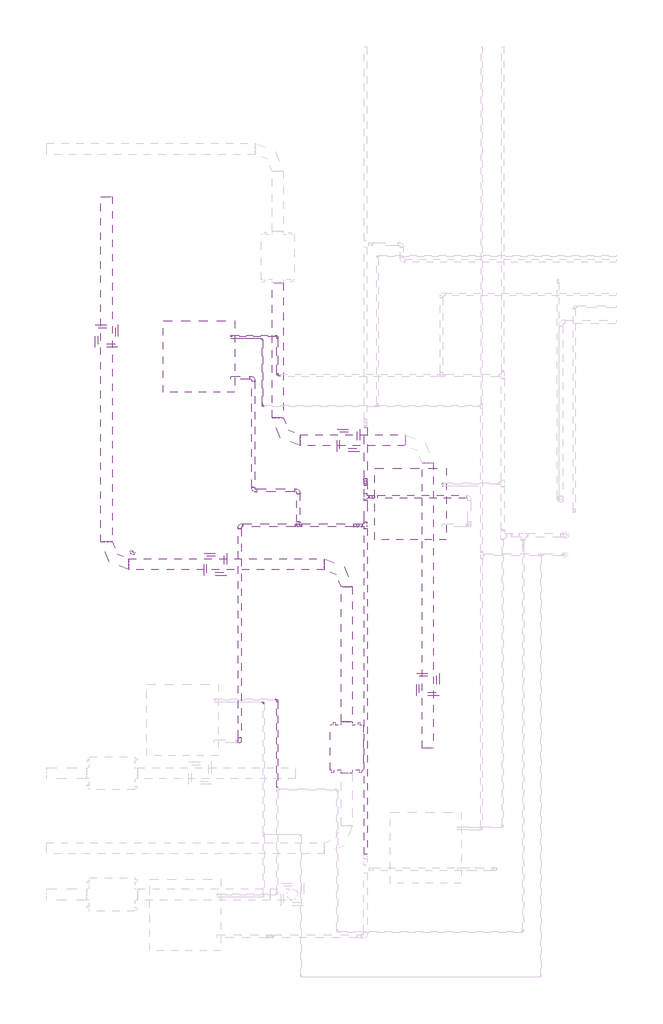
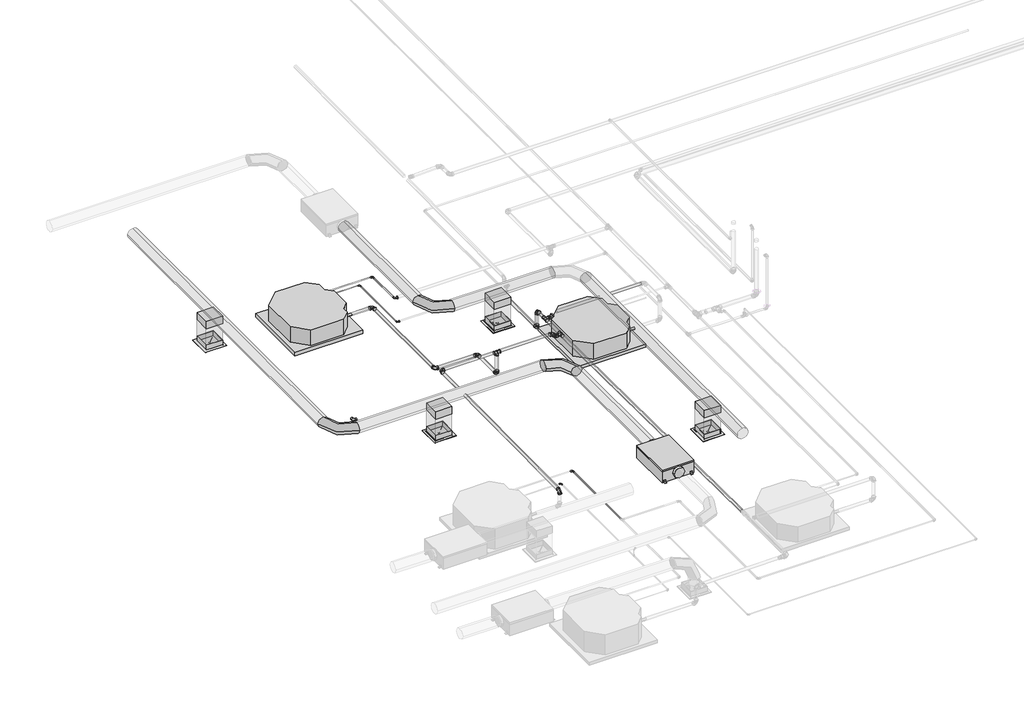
# One storey, part 2 of 21: 27 pipe fittings, 23 pipe segments, 10 duct segments, 7 duct fittings, 4 air terminals, 3 proxies.
"""IFC4 building model written with IfcOpenShell, lengths in millimetres."""

from ifc_helpers import new_model, si_unit, point, frame, frame_2d, origin, place, context, project, spatial, polyline, circle_curve, trimmed, segment, composite_curve, outline, extrude, transform, mapped, element, save
from components import sdq3535_a75e83f7, mechanical_equipment_77aa587a, fh_fh_150_19aaf5c2, duct_fitting_4c01d837, duct_fitting_2_d_e46ba55a, pipe_fitting_0ad7e8bf, pipe_fitting_144f4440, pipe_fitting_0c296126, pipe_fitting_56ef2ba5, pipe_fitting_14eb6376, pipe_fitting_094f8e04, pipe_fitting_feadc871, pipe_fitting_08070b62, pipe_fitting_c900cfc2, pipe_fitting_16c020f5, pipe_fitting_501e5992, pipe_fitting_59d1f3e3, pipe_fitting_648138cd, pipe_fitting_b0e77d1d

model = new_model("IFC4")

# Units and contexts
model_context = context("Model", 3, world=origin())
ifc_project = project(units=[si_unit("LENGTHUNIT", "METRE", prefix="MILLI")], contexts=[model_context])

# Site, building, storey
site = spatial("IfcSite", under=ifc_project)
building = spatial("IfcBuilding", under=site)
storey = spatial("IfcBuildingStorey", under=building, Name="Nível 1", Elevation=0.0)

# Air terminals
placement = place(None, origin())
sdq3535_shape = sdq3535_a75e83f7(model_context)
element("IfcAirTerminal", 1, ObjectType="11 - Difusor Quadrado : SDQ3535", at=placement, inside=storey, context=model_context, shape_type="MappedRepresentation", body=[
    mapped(sdq3535_shape, transform((-8322.9288653, -5043.0039295, 3000.0), x_axis=(-1.0, 0.0, 0.0), y_axis=(0.0, -1.0, 0.0), z_axis=(0.0, 0.0, 1.0))),
])
element("IfcAirTerminal", 2, ObjectType="11 - Difusor Quadrado : SDQ3535", at=placement, inside=storey, context=model_context, shape_type="MappedRepresentation", body=[
    mapped(sdq3535_shape, transform((-9381.5962674, -1790.4422031, 3000.0), x_axis=(0.0, -1.0, 0.0), y_axis=(1.0, 0.0, 0.0), z_axis=(0.0, 0.0, 1.0))),
])
element("IfcAirTerminal", 3, ObjectType="11 - Difusor Quadrado : SDQ3535", at=placement, inside=storey, context=model_context, shape_type="MappedRepresentation", body=[
    mapped(sdq3535_shape, transform((-11154.5028535, -3442.2114568, 3000.0), x_axis=(0.0, 1.0, 0.0), y_axis=(-1.0, 0.0, 0.0), z_axis=(0.0, 0.0, 1.0))),
])
element("IfcAirTerminal", 4, ObjectType="11 - Difusor Quadrado : SDQ3535", at=placement, inside=storey, context=model_context, shape_type="MappedRepresentation", body=[
    mapped(sdq3535_shape, transform((-12604.386399, -400.1179498, 3000.0), x_axis=(1.0, 0.0, 0.0), y_axis=(0.0, 1.0, 0.0), z_axis=(0.0, 0.0, 1.0))),
])

# Proxies
mechanical_equipment_shape = mechanical_equipment_77aa587a(model_context)
element("IfcBuildingElementProxy", 5, Name="Midea_VRF_Indoor_4-way Cassette_MI-56(71,80)Q4_DHN1-D (2nd DC) : MI2-71Q4DHN1", ObjectType="Midea_VRF_Indoor_4-way Cassette_MI-56(71,80)Q4_DHN1-D (2nd DC) : MI2-71Q4DHN1", at=placement, inside=storey, context=model_context, shape_type="MappedRepresentation", body=[
    mapped(mechanical_equipment_shape, transform((-8554.1056599, -2637.9997871, 3000.0), x_axis=(1.0, 0.0, 0.0), y_axis=(0.0, 1.0, 0.0), z_axis=(0.0, 0.0, 1.0))),
])
element("IfcBuildingElementProxy", 6, Name="Midea_VRF_Indoor_4-way Cassette_MI-56(71,80)Q4_DHN1-D (2nd DC) : MI2-71Q4DHN1", ObjectType="Midea_VRF_Indoor_4-way Cassette_MI-56(71,80)Q4_DHN1-D (2nd DC) : MI2-71Q4DHN1", at=placement, inside=storey, context=model_context, shape_type="MappedRepresentation", body=[
    mapped(mechanical_equipment_shape, transform((-11373.3060551, -673.3287635, 3000.0), x_axis=(1.0, 0.0, 0.0), y_axis=(0.0, 1.0, 0.0), z_axis=(0.0, 0.0, 1.0))),
])
fh_fh_150_shape = fh_fh_150_19aaf5c2(model_context)
element("IfcBuildingElementProxy", 7, Name="FH : FH 150", ObjectType="FH : FH 150", at=placement, inside=storey, context=model_context, shape_type="MappedRepresentation", body=[
    mapped(fh_fh_150_shape, transform((-9404.386399, -5884.2114568, 3400.0), x_axis=(1.0, 0.0, 0.0), y_axis=(0.0, 1.0, 0.0), z_axis=(0.0, 0.0, 1.0))),
])

# Duct fittings
duct_fitting_shape = duct_fitting_4c01d837(model_context)
element("IfcDuctFitting", 8, ObjectType="M_Encaixe de duto retangular : Padrão", at=placement, inside=storey, context=model_context, shape_type="MappedRepresentation", body=[
    mapped(duct_fitting_shape, transform((-8322.9288653, -5043.0039295, 3418.5), x_axis=(0.0, 0.0, -1.0), y_axis=(0.0, 1.0, 0.0), z_axis=(1.0, 0.0, 0.0))),
])
element("IfcDuctFitting", 9, ObjectType="M_Encaixe de duto retangular : Padrão", at=placement, inside=storey, context=model_context, shape_type="MappedRepresentation", body=[
    mapped(duct_fitting_shape, transform((-9381.5962674, -1790.4422031, 3418.5), x_axis=(0.0, 0.0, -1.0), y_axis=(-1.0, 0.0, 0.0), z_axis=(0.0, 1.0, 0.0))),
])
element("IfcDuctFitting", 10, ObjectType="M_Encaixe de duto retangular : Padrão", at=placement, inside=storey, context=model_context, shape_type="MappedRepresentation", body=[
    mapped(duct_fitting_shape, transform((-11154.5028535, -3442.2114568, 3418.5), x_axis=(0.0, 0.0, -1.0), y_axis=(1.0, 0.0, 0.0), z_axis=(0.0, -1.0, 0.0))),
])
element("IfcDuctFitting", 11, ObjectType="M_Encaixe de duto retangular : Padrão", at=placement, inside=storey, context=model_context, shape_type="MappedRepresentation", body=[
    mapped(duct_fitting_shape, transform((-12604.386399, -400.1179498, 3418.5), x_axis=(0.0, 0.0, -1.0), y_axis=(0.0, -1.0, 0.0), z_axis=(-1.0, 0.0, 0.0))),
])
duct_fitting_2_d_shape = duct_fitting_2_d_e46ba55a(model_context)
element("IfcDuctFitting", 12, ObjectType="M_Cotovelo redondo : 2 D", at=placement, inside=storey, context=model_context, shape_type="MappedRepresentation", body=[
    mapped(duct_fitting_2_d_shape, transform((-9404.386399, -3442.2114568, 3493.0), x_axis=(0.0, 1.0, 0.0), y_axis=(-1.0, 0.0, 0.0), z_axis=(0.0, 0.0, 1.0))),
])
element("IfcDuctFitting", 13, ObjectType="M_Cotovelo redondo : 2 D", at=placement, inside=storey, context=model_context, shape_type="MappedRepresentation", body=[
    mapped(duct_fitting_2_d_shape, transform((-12604.386399, -3442.2114568, 3493.0), x_axis=(0.0, -1.0, 0.0), y_axis=(1.0, 0.0, 0.0), z_axis=(0.0, 0.0, 1.0))),
])
element("IfcDuctFitting", 14, ObjectType="M_Cotovelo redondo : 2 D", at=placement, inside=storey, context=model_context, shape_type="MappedRepresentation", body=[
    mapped(duct_fitting_2_d_shape, transform((-10322.9288653, -1790.4422031, 3493.0), x_axis=(0.0, -1.0, 0.0), y_axis=(1.0, 0.0, 0.0), z_axis=(0.0, 0.0, 1.0))),
])

# Duct segments
element("IfcDuctSegment", 15, ObjectType="Torneiras / Raio curto", at=placement, inside=storey, context=model_context, shape_type="SweptSolid", body=[
    extrude(outline(composite_curve([segment(trimmed(circle_curve(frame_2d((3493.0, -9404.386399)), 74.5), [point((3493.0, -9329.886399))], [point((3567.5, -9404.386399))], False, "CARTESIAN"), True, "CONTINUOUS"), segment(trimmed(circle_curve(frame_2d((3493.0, -9404.386399)), 74.5), [point((3567.5, -9404.386399))], [point((3493.0, -9478.886399))], False, "CARTESIAN"), True, "CONTINUOUS"), segment(trimmed(circle_curve(frame_2d((3493.0, -9404.386399)), 74.5), [point((3493.0, -9478.886399))], [point((3418.5, -9404.386399))], False, "CARTESIAN"), True, "CONTINUOUS"), segment(trimmed(circle_curve(frame_2d((3493.0, -9404.386399)), 74.5), [point((3418.5, -9404.386399))], [point((3493.0, -9329.886399))], False, "CARTESIAN"), True, "CONTINUOUS")], self_intersect=False)), frame((0.0, -5542.2114568, 0.0), z_axis=(0.0, 1.0, 0.0), x_axis=(0.0, 0.0, 1.0)), (0.0, 0.0, 1.0), 1802.0),
])
element("IfcDuctSegment", 16, ObjectType="Torneiras / Raio curto", at=placement, inside=storey, context=model_context, shape_type="SweptSolid", body=[
    extrude(outline(composite_curve([segment(trimmed(circle_curve(frame_2d((-3442.2114568, 3493.0)), 74.5), [point((-3367.7114568, 3493.0))], [point((-3442.2114568, 3418.5))], False, "CARTESIAN"), True, "CONTINUOUS"), segment(trimmed(circle_curve(frame_2d((-3442.2114568, 3493.0)), 74.5), [point((-3442.2114568, 3418.5))], [point((-3516.7114568, 3493.0))], False, "CARTESIAN"), True, "CONTINUOUS"), segment(trimmed(circle_curve(frame_2d((-3442.2114568, 3493.0)), 74.5), [point((-3516.7114568, 3493.0))], [point((-3442.2114568, 3567.5))], False, "CARTESIAN"), True, "CONTINUOUS"), segment(trimmed(circle_curve(frame_2d((-3442.2114568, 3493.0)), 74.5), [point((-3442.2114568, 3567.5))], [point((-3367.7114568, 3493.0))], False, "CARTESIAN"), True, "CONTINUOUS")], self_intersect=False)), frame((-12306.386399, 0.0, 0.0), z_axis=(1.0, 0.0, 0.0), x_axis=(0.0, 1.0, 0.0)), (0.0, 0.0, 1.0), 2604.0),
])
element("IfcDuctSegment", 17, ObjectType="Torneiras / Raio curto", at=placement, inside=storey, context=model_context, shape_type="SweptSolid", body=[
    extrude(outline(composite_curve([segment(trimmed(circle_curve(frame_2d((3493.0, -12604.386399)), 74.5), [point((3493.0, -12529.886399))], [point((3567.5, -12604.386399))], False, "CARTESIAN"), True, "CONTINUOUS"), segment(trimmed(circle_curve(frame_2d((3493.0, -12604.386399)), 74.5), [point((3567.5, -12604.386399))], [point((3493.0, -12678.886399))], False, "CARTESIAN"), True, "CONTINUOUS"), segment(trimmed(circle_curve(frame_2d((3493.0, -12604.386399)), 74.5), [point((3493.0, -12678.886399))], [point((3418.5, -12604.386399))], False, "CARTESIAN"), True, "CONTINUOUS"), segment(trimmed(circle_curve(frame_2d((3493.0, -12604.386399)), 74.5), [point((3418.5, -12604.386399))], [point((3493.0, -12529.886399))], False, "CARTESIAN"), True, "CONTINUOUS")], self_intersect=False)), frame((0.0, -3144.2114568, 0.0), z_axis=(0.0, 1.0, 0.0), x_axis=(0.0, 0.0, 1.0)), (0.0, 0.0, 1.0), 4602.0),
])
element("IfcDuctSegment", 18, ObjectType="Torneiras / Raio curto", at=placement, inside=storey, context=model_context, shape_type="SweptSolid", body=[
    extrude(outline(composite_curve([segment(trimmed(circle_curve(frame_2d((3493.0, -10322.9288653)), 74.5), [point((3493.0, -10397.4288653))], [point((3418.5, -10322.9288653))], False, "CARTESIAN"), True, "CONTINUOUS"), segment(trimmed(circle_curve(frame_2d((3493.0, -10322.9288653)), 74.5), [point((3418.5, -10322.9288653))], [point((3493.0, -10248.4288653))], False, "CARTESIAN"), True, "CONTINUOUS"), segment(trimmed(circle_curve(frame_2d((3493.0, -10322.9288653)), 74.5), [point((3493.0, -10248.4288653))], [point((3567.5, -10322.9288653))], False, "CARTESIAN"), True, "CONTINUOUS"), segment(trimmed(circle_curve(frame_2d((3493.0, -10322.9288653)), 74.5), [point((3567.5, -10322.9288653))], [point((3493.0, -10397.4288653))], False, "CARTESIAN"), True, "CONTINUOUS")], self_intersect=False)), frame((0.0, -1492.4422031, 0.0), z_axis=(0.0, 1.0, 0.0), x_axis=(0.0, 0.0, 1.0)), (0.0, 0.0, 1.0), 1802.0),
])
element("IfcDuctSegment", 19, ObjectType="Torneiras / Raio curto", at=placement, inside=storey, context=model_context, shape_type="SweptSolid", body=[
    extrude(outline(composite_curve([segment(trimmed(circle_curve(frame_2d((-1790.4422031, 3493.0)), 74.5), [point((-1864.9422031, 3493.0))], [point((-1790.4422031, 3567.5))], False, "CARTESIAN"), True, "CONTINUOUS"), segment(trimmed(circle_curve(frame_2d((-1790.4422031, 3493.0)), 74.5), [point((-1790.4422031, 3567.5))], [point((-1715.9422031, 3493.0))], False, "CARTESIAN"), True, "CONTINUOUS"), segment(trimmed(circle_curve(frame_2d((-1790.4422031, 3493.0)), 74.5), [point((-1715.9422031, 3493.0))], [point((-1790.4422031, 3418.5))], False, "CARTESIAN"), True, "CONTINUOUS"), segment(trimmed(circle_curve(frame_2d((-1790.4422031, 3493.0)), 74.5), [point((-1790.4422031, 3418.5))], [point((-1864.9422031, 3493.0))], False, "CARTESIAN"), True, "CONTINUOUS")], self_intersect=False)), frame((-10024.9288653, 0.0, 0.0), z_axis=(1.0, 0.0, 0.0), x_axis=(0.0, 1.0, 0.0)), (0.0, 0.0, 1.0), 1404.0),
])
element("IfcDuctSegment", 20, ObjectType="Torneiras / Raio curto", at=placement, inside=storey, context=model_context, shape_type="SweptSolid", body=[
    extrude(outline(composite_curve([segment(trimmed(circle_curve(frame_2d((3493.0, -8322.9288653)), 74.5), [point((3493.0, -8397.4288653))], [point((3418.5, -8322.9288653))], False, "CARTESIAN"), True, "CONTINUOUS"), segment(trimmed(circle_curve(frame_2d((3493.0, -8322.9288653)), 74.5), [point((3418.5, -8322.9288653))], [point((3493.0, -8248.4288653))], False, "CARTESIAN"), True, "CONTINUOUS"), segment(trimmed(circle_curve(frame_2d((3493.0, -8322.9288653)), 74.5), [point((3493.0, -8248.4288653))], [point((3567.5, -8322.9288653))], False, "CARTESIAN"), True, "CONTINUOUS"), segment(trimmed(circle_curve(frame_2d((3493.0, -8322.9288653)), 74.5), [point((3567.5, -8322.9288653))], [point((3493.0, -8397.4288653))], False, "CARTESIAN"), True, "CONTINUOUS")], self_intersect=False)), frame((0.0, -5890.4422031, 0.0), z_axis=(0.0, 1.0, 0.0), x_axis=(0.0, 0.0, 1.0)), (0.0, 0.0, 1.0), 3802.0),
])
element("IfcDuctSegment", 21, ObjectType="Raios cotovelos / torneiras", at=placement, inside=storey, context=model_context, shape_type="SweptSolid", body=[
    extrude(outline(polyline([(-8435.4288653, -5155.5039295), (-8435.4288653, -4930.5039295), (-8210.4288653, -4930.5039295), (-8210.4288653, -5155.5039295), (-8435.4288653, -5155.5039295)])), frame((0.0, 0.0, 3005.0), z_axis=(0.0, 0.0, 1.0), x_axis=(1.0, 0.0, 0.0)), (0.0, 0.0, 1.0), 311.9),
])
element("IfcDuctSegment", 22, ObjectType="Raios cotovelos / torneiras", at=placement, inside=storey, context=model_context, shape_type="SweptSolid", body=[
    extrude(outline(polyline([(-9269.0962674, -1902.9422031), (-9494.0962674, -1902.9422031), (-9494.0962674, -1677.9422031), (-9269.0962674, -1677.9422031), (-9269.0962674, -1902.9422031)])), frame((0.0, 0.0, 3005.0), z_axis=(0.0, 0.0, 1.0), x_axis=(1.0, 0.0, 0.0)), (0.0, 0.0, 1.0), 311.9),
])
element("IfcDuctSegment", 23, ObjectType="Raios cotovelos / torneiras", at=placement, inside=storey, context=model_context, shape_type="SweptSolid", body=[
    extrude(outline(polyline([(-11267.0028535, -3329.7114568), (-11042.0028535, -3329.7114568), (-11042.0028535, -3554.7114568), (-11267.0028535, -3554.7114568), (-11267.0028535, -3329.7114568)])), frame((0.0, 0.0, 3005.0), z_axis=(0.0, 0.0, 1.0), x_axis=(1.0, 0.0, 0.0)), (0.0, 0.0, 1.0), 311.9),
])
element("IfcDuctSegment", 24, ObjectType="Raios cotovelos / torneiras", at=placement, inside=storey, context=model_context, shape_type="SweptSolid", body=[
    extrude(outline(polyline([(-12491.886399, -287.6179498), (-12491.886399, -512.6179498), (-12716.886399, -512.6179498), (-12716.886399, -287.6179498), (-12491.886399, -287.6179498)])), frame((0.0, 0.0, 3005.0), z_axis=(0.0, 0.0, 1.0), x_axis=(1.0, 0.0, 0.0)), (0.0, 0.0, 1.0), 311.9),
])

# Pipe fittings
pipe_fitting_shape = pipe_fitting_0ad7e8bf(model_context)
element("IfcPipeFitting", 25, ObjectType="Cotovelo - Soldado - CU : Padrão", at=placement, inside=storey, context=model_context, shape_type="MappedRepresentation", body=[
    mapped(pipe_fitting_shape, transform((-12271.384623, -3299.9512583, 3500.0), x_axis=(0.0, -1.0, 0.0), y_axis=(1.0, 0.0, 0.0), z_axis=(0.0, 0.0, 1.0))),
])
pipe_fitting_2_shape = pipe_fitting_144f4440(model_context)
element("IfcPipeFitting", 26, ObjectType="Cotovelo - PVC - CW : Padrão", at=placement, inside=storey, context=model_context, shape_type="MappedRepresentation", body=[
    mapped(pipe_fitting_2_shape, transform((-9153.185193, -2345.4548922, 3200.0), x_axis=(0.0, -1.0, 0.0), y_axis=(0.0, 0.0, 1.0), z_axis=(-1.0, 0.0, 0.0))),
])
element("IfcPipeFitting", 27, ObjectType="Cotovelo - PVC - CW : Padrão", at=placement, inside=storey, context=model_context, shape_type="MappedRepresentation", body=[
    mapped(pipe_fitting_2_shape, transform((-10832.1622686, -2922.9997871, 3500.0), x_axis=(-1.0, 0.0, 0.0), y_axis=(0.0, -0.9999500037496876, -0.009999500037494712), z_axis=(0.0, -0.009999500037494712, 0.9999500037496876))),
])
element("IfcPipeFitting", 28, ObjectType="Cotovelo - PVC - CW : Padrão", at=placement, inside=storey, context=model_context, shape_type="MappedRepresentation", body=[
    mapped(pipe_fitting_2_shape, transform((-10648.3060552, -958.3287635, 3182.3), x_axis=(0.0, 1.0, 0.0), y_axis=(-0.9999999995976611, 0.0, 2.8366844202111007e-05), z_axis=(2.8366844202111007e-05, 0.0, 0.9999999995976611))),
])
element("IfcPipeFitting", 29, ObjectType="Cotovelo - PVC - CW : Padrão", at=placement, inside=storey, context=model_context, shape_type="MappedRepresentation", body=[
    mapped(pipe_fitting_2_shape, transform((-10648.3060552, -2458.3287635, 3182.3), x_axis=(0.0, -1.0, 0.0), y_axis=(1.0, 0.0, 0.0), z_axis=(0.0, 0.0, 1.0))),
])
element("IfcPipeFitting", 30, ObjectType="Cotovelo - PVC - CW : Padrão", at=placement, inside=storey, context=model_context, shape_type="MappedRepresentation", body=[
    mapped(pipe_fitting_2_shape, transform((-10048.3060552, -2922.9997871, 3182.3), x_axis=(0.0, 0.0, -1.0), y_axis=(0.0, 1.0, 0.0), z_axis=(1.0, 0.0, 0.0))),
])
element("IfcPipeFitting", 31, ObjectType="Cotovelo - PVC - CW : Padrão", at=placement, inside=storey, context=model_context, shape_type="MappedRepresentation", body=[
    mapped(pipe_fitting_2_shape, transform((-10048.3060552, -2458.3287635, 3182.3), x_axis=(0.0, 1.0, 0.0), y_axis=(-1.0, 0.0, 0.0), z_axis=(0.0, 0.0, 1.0))),
])
pipe_fitting_3_shape = pipe_fitting_0c296126(model_context)
element("IfcPipeFitting", 32, ObjectType="Cotovelo - PVC - CW : Padrão", at=placement, inside=storey, context=model_context, shape_type="MappedRepresentation", body=[
    mapped(pipe_fitting_3_shape, transform((-9153.185193, -2345.4548922, 3446.9612512), x_axis=(0.0, 0.0, 1.0), y_axis=(0.0, -1.0, 0.0), z_axis=(1.0, 0.0, 0.0))),
])
pipe_fitting_4_shape = pipe_fitting_56ef2ba5(model_context)
element("IfcPipeFitting", 33, ObjectType="Cotovelo - PVC - CW : Padrão", at=placement, inside=storey, context=model_context, shape_type="MappedRepresentation", body=[
    mapped(pipe_fitting_4_shape, transform((-10832.1622686, -5801.2147432, 3471.2178504), x_axis=(0.0, -0.9999500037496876, -0.00999950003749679), y_axis=(0.0, 0.00999950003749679, -0.9999500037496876), z_axis=(1.0, 0.0, 0.0))),
])
pipe_fitting_5_shape = pipe_fitting_14eb6376(model_context)
element("IfcPipeFitting", 34, ObjectType="Tê de redução - PVC - CW : Padrão", at=placement, inside=storey, context=model_context, shape_type="MappedRepresentation", body=[
    mapped(pipe_fitting_5_shape, transform((-9153.185193, -2922.9997871, 3452.5764146), x_axis=(0.0, -0.9999527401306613, 0.009722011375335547), y_axis=(1.0, 0.0, 0.0), z_axis=(0.0, 0.009722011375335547, 0.9999527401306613))),
])
element("IfcPipeFitting", 35, ObjectType="Tê de redução - PVC - CW : Padrão", at=placement, inside=storey, context=model_context, shape_type="MappedRepresentation", body=[
    mapped(pipe_fitting_5_shape, transform((-9153.185193, -2542.9997871, 3448.8818757), x_axis=(0.0, -0.9999527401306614, 0.009722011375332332), y_axis=(-1.0000000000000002, 0.0, 0.0), z_axis=(0.0, -0.009722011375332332, -0.9999527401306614))),
])
element("IfcPipeFitting", 36, ObjectType="Tê de redução - PVC - CW : Padrão", at=placement, inside=storey, context=model_context, shape_type="MappedRepresentation", body=[
    mapped(pipe_fitting_5_shape, transform((-10048.3060552, -2922.9997871, 3500.0), x_axis=(1.0, 0.0, 0.0), y_axis=(0.0, 0.0, 1.0), z_axis=(0.0, -1.0, 0.0))),
])
pipe_fitting_6_shape = pipe_fitting_094f8e04(model_context)
element("IfcPipeFitting", 37, ObjectType="Cotovelo - PVC - CW : Padrão", at=placement, inside=storey, context=model_context, shape_type="MappedRepresentation", body=[
    mapped(pipe_fitting_6_shape, transform((-9231.7720042, -2922.9997871, 3452.5764146), x_axis=(-1.0, 0.0, 0.0), y_axis=(0.0, 0.0, 1.0), z_axis=(0.0, 1.0, 0.0))),
])
element("IfcPipeFitting", 38, ObjectType="Cotovelo - PVC - CW : Padrão", at=placement, inside=storey, context=model_context, shape_type="MappedRepresentation", body=[
    mapped(pipe_fitting_6_shape, transform((-9279.1955896, -2922.9997871, 3500.0), x_axis=(-0.7071067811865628, 0.0, 0.7071067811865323), y_axis=(-0.7071067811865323, 0.0, -0.7071067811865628), z_axis=(0.0, -1.0, 0.0))),
])
element("IfcPipeFitting", 39, ObjectType="Cotovelo - PVC - CW : Padrão", at=placement, inside=storey, context=model_context, shape_type="MappedRepresentation", body=[
    mapped(pipe_fitting_6_shape, transform((-9074.5983818, -2542.9997871, 3448.8818757), x_axis=(1.0, 0.0, 0.0), y_axis=(0.0, 0.0, 1.0), z_axis=(0.0, -1.0, 0.0))),
])
pipe_fitting_7_shape = pipe_fitting_feadc871(model_context)
element("IfcPipeFitting", 40, ObjectType="Bucha de redução reta - Soldada - CU : Padrão", at=placement, inside=storey, context=model_context, shape_type="MappedRepresentation", body=[
    mapped(pipe_fitting_7_shape, transform((-10504.2804551, -1333.9203916, 3146.8446487), x_axis=(1.0, 0.0, 0.0), y_axis=(0.0, 1.0, 0.0), z_axis=(0.0, 0.0, 1.0))),
])
pipe_fitting_8_shape = pipe_fitting_08070b62(model_context)
element("IfcPipeFitting", 41, ObjectType="Bucha de redução reta - Soldada - CU : Padrão", at=placement, inside=storey, context=model_context, shape_type="MappedRepresentation", body=[
    mapped(pipe_fitting_8_shape, transform((-10299.3274551, -926.8697635, 3182.3085124), x_axis=(0.9999999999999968, 0.0, 8.087914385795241e-08), y_axis=(0.0, 1.0, 0.0), z_axis=(-8.087914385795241e-08, 0.0, 0.9999999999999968))),
])
pipe_fitting_9_shape = pipe_fitting_c900cfc2(model_context)
element("IfcPipeFitting", 42, ObjectType="Bucha de redução reta - Soldada - CU : Padrão", at=placement, inside=storey, context=model_context, shape_type="MappedRepresentation", body=[
    mapped(pipe_fitting_9_shape, transform((-8129.1056599, -2364.7889735, 3182.3085101), x_axis=(1.0, 0.0, 0.0), y_axis=(0.0, 1.0, 0.0), z_axis=(0.0, 0.0, 1.0))),
])
pipe_fitting_10_shape = pipe_fitting_16c020f5(model_context)
element("IfcPipeFitting", 43, ObjectType="Cotovelo - Soldado - CU : Padrão", at=placement, inside=storey, context=model_context, shape_type="MappedRepresentation", body=[
    mapped(pipe_fitting_10_shape, transform((-10328.3060551, -400.1179498, 3182.3085101), x_axis=(0.0, 1.0, 0.0), y_axis=(-1.0, 0.0, 0.0), z_axis=(0.0, 0.0, 1.0))),
])
element("IfcPipeFitting", 44, ObjectType="Cotovelo - Soldado - CU : Padrão", at=placement, inside=storey, context=model_context, shape_type="MappedRepresentation", body=[
    mapped(pipe_fitting_10_shape, transform((-10330.0196229, -5243.0039295, 3252.3085101), x_axis=(0.0, 0.9999999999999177, -4.0571328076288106e-07), y_axis=(-1.0, 0.0, 0.0), z_axis=(0.0, 4.0571328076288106e-07, 0.9999999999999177))),
])
element("IfcPipeFitting", 45, ObjectType="Cotovelo - Soldado - CU : Padrão", at=placement, inside=storey, context=model_context, shape_type="MappedRepresentation", body=[
    mapped(pipe_fitting_10_shape, transform((-10328.3060551, -926.8697635, 3182.3085101), x_axis=(0.0, -1.0, 0.0), y_axis=(0.9999999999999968, 0.0, 8.087914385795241e-08), z_axis=(-8.087914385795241e-08, 0.0, 0.9999999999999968))),
])
pipe_fitting_11_shape = pipe_fitting_501e5992(model_context)
element("IfcPipeFitting", 46, ObjectType="Bucha de redução reta - Soldada - CU : Padrão", at=placement, inside=storey, context=model_context, shape_type="MappedRepresentation", body=[
    mapped(pipe_fitting_11_shape, transform((-10935.6471551, -400.1179498, 3182.3085101), x_axis=(-1.0, 0.0, 0.0), y_axis=(0.0, -1.0, 0.0), z_axis=(0.0, 0.0, 1.0))),
])
pipe_fitting_12_shape = pipe_fitting_59d1f3e3(model_context)
element("IfcPipeFitting", 47, ObjectType="Bucha de redução reta - Soldada - CU : Padrão", at=placement, inside=storey, context=model_context, shape_type="MappedRepresentation", body=[
    mapped(pipe_fitting_12_shape, transform((-10948.3060551, -433.9203916, 3146.8446487), x_axis=(1.0, 0.0, 0.0), y_axis=(0.0, 1.0, 0.0), z_axis=(0.0, 0.0, 1.0))),
])
pipe_fitting_13_shape = pipe_fitting_648138cd(model_context)
element("IfcPipeFitting", 48, ObjectType="Cotovelo - Soldado - CU : Padrão", at=placement, inside=storey, context=model_context, shape_type="MappedRepresentation", body=[
    mapped(pipe_fitting_13_shape, transform((-10528.3060551, -433.9203916, 3146.8446487), x_axis=(0.0, 1.0, 0.0), y_axis=(-1.0, 0.0, 0.0), z_axis=(0.0, 0.0, 1.0))),
])
element("IfcPipeFitting", 49, ObjectType="Cotovelo - Soldado - CU : Padrão", at=placement, inside=storey, context=model_context, shape_type="MappedRepresentation", body=[
    mapped(pipe_fitting_13_shape, transform((-10528.3060551, -1333.9203916, 3146.8446487), x_axis=(0.0, -1.0, 0.0), y_axis=(1.0, 0.0, 0.0), z_axis=(0.0, 0.0, 1.0))),
])
element("IfcPipeFitting", 50, ObjectType="Cotovelo - Soldado - CU : Padrão", at=placement, inside=storey, context=model_context, shape_type="MappedRepresentation", body=[
    mapped(pipe_fitting_13_shape, transform((-10510.0196229, -5276.8063713, 3146.8446487), x_axis=(0.0, 1.0, 0.0), y_axis=(-1.0, 0.0, 0.0), z_axis=(0.0, 0.0, 1.0))),
])
pipe_fitting_14_shape = pipe_fitting_b0e77d1d(model_context)
element("IfcPipeFitting", 51, ObjectType="Bucha de redução reta - Soldada - CU : Padrão", at=placement, inside=storey, context=model_context, shape_type="MappedRepresentation", body=[
    mapped(pipe_fitting_14_shape, transform((-8129.1056599, -2398.5914153, 3146.8446487), x_axis=(1.0, 0.0, 0.0), y_axis=(0.0, 1.0, 0.0), z_axis=(0.0, 0.0, 1.0))),
])

# Pipe segments
element("IfcPipeSegment", 52, ObjectType="Tubos de cobre HVAC", at=placement, inside=storey, context=model_context, shape_type="SweptSolid", body=[
    extrude(outline(composite_curve([segment(trimmed(circle_curve(frame_2d((-400.1179498, 3182.3085101)), 7.935), [point((-408.0529498, 3182.3085101))], [point((-400.1179498, 3190.2435101))], False, "CARTESIAN"), True, "CONTINUOUS"), segment(trimmed(circle_curve(frame_2d((-400.1179498, 3182.3085101)), 7.935), [point((-400.1179498, 3190.2435101))], [point((-392.1829498, 3182.3085101))], False, "CARTESIAN"), True, "CONTINUOUS"), segment(trimmed(circle_curve(frame_2d((-400.1179498, 3182.3085101)), 7.935), [point((-392.1829498, 3182.3085101))], [point((-400.1179498, 3174.3735101))], False, "CARTESIAN"), True, "CONTINUOUS"), segment(trimmed(circle_curve(frame_2d((-400.1179498, 3182.3085101)), 7.935), [point((-400.1179498, 3174.3735101))], [point((-408.0529498, 3182.3085101))], False, "CARTESIAN"), True, "CONTINUOUS")], self_intersect=False)), frame((-10935.6471551, 0.0, 0.0), z_axis=(1.0, 0.0, 0.0), x_axis=(0.0, 1.0, 0.0)), (0.0, 0.0, 1.0), 578.3625),
])
element("IfcPipeSegment", 53, ObjectType="Tubos de cobre HVAC", at=placement, inside=storey, context=model_context, shape_type="SweptSolid", body=[
    extrude(outline(composite_curve([segment(trimmed(circle_curve(frame_2d((3182.3085101, -10328.3060551)), 7.935), [point((3182.3085101, -10336.2410551))], [point((3174.3735101, -10328.3060551))], False, "CARTESIAN"), True, "CONTINUOUS"), segment(trimmed(circle_curve(frame_2d((3182.3085101, -10328.3060551)), 7.935), [point((3174.3735101, -10328.3060551))], [point((3182.3085101, -10320.3710551))], False, "CARTESIAN"), True, "CONTINUOUS"), segment(trimmed(circle_curve(frame_2d((3182.3085101, -10328.3060551)), 7.935), [point((3182.3085101, -10320.3710551))], [point((3190.2435101, -10328.3060551))], False, "CARTESIAN"), True, "CONTINUOUS"), segment(trimmed(circle_curve(frame_2d((3182.3085101, -10328.3060551)), 7.935), [point((3190.2435101, -10328.3060551))], [point((3182.3085101, -10336.2410551))], False, "CARTESIAN"), True, "CONTINUOUS")], self_intersect=False)), frame((0.0, -897.8911635, 0.0), z_axis=(0.0, 1.0, 0.0), x_axis=(0.0, 0.0, 1.0)), (0.0, 0.0, 1.0), 468.7946137),
])
element("IfcPipeSegment", 54, ObjectType="Tubos de cobre HVAC", at=placement, inside=storey, context=model_context, shape_type="SweptSolid", body=[
    extrude(outline(composite_curve([segment(trimmed(circle_curve(frame_2d((-433.9203916, 3146.8446487)), 4.76), [point((-438.6803916, 3146.8446487))], [point((-433.9203916, 3151.6046487))], False, "CARTESIAN"), True, "CONTINUOUS"), segment(trimmed(circle_curve(frame_2d((-433.9203916, 3146.8446487)), 4.76), [point((-433.9203916, 3151.6046487))], [point((-429.1603916, 3146.8446487))], False, "CARTESIAN"), True, "CONTINUOUS"), segment(trimmed(circle_curve(frame_2d((-433.9203916, 3146.8446487)), 4.76), [point((-429.1603916, 3146.8446487))], [point((-433.9203916, 3142.0846487))], False, "CARTESIAN"), True, "CONTINUOUS"), segment(trimmed(circle_curve(frame_2d((-433.9203916, 3146.8446487)), 4.76), [point((-433.9203916, 3142.0846487))], [point((-438.6803916, 3146.8446487))], False, "CARTESIAN"), True, "CONTINUOUS")], self_intersect=False)), frame((-10938.6316551, 0.0, 0.0), z_axis=(1.0, 0.0, 0.0), x_axis=(0.0, 1.0, 0.0)), (0.0, 0.0, 1.0), 386.3),
])
element("IfcPipeSegment", 55, ObjectType="Tubos de cobre HVAC", at=placement, inside=storey, context=model_context, shape_type="SweptSolid", body=[
    extrude(outline(composite_curve([segment(trimmed(circle_curve(frame_2d((3146.8446487, -10528.3060551)), 4.76), [point((3146.8446487, -10533.0660551))], [point((3142.0846487, -10528.3060551))], False, "CARTESIAN"), True, "CONTINUOUS"), segment(trimmed(circle_curve(frame_2d((3146.8446487, -10528.3060551)), 4.76), [point((3142.0846487, -10528.3060551))], [point((3146.8446487, -10523.5460551))], False, "CARTESIAN"), True, "CONTINUOUS"), segment(trimmed(circle_curve(frame_2d((3146.8446487, -10528.3060551)), 4.76), [point((3146.8446487, -10523.5460551))], [point((3151.6046487, -10528.3060551))], False, "CARTESIAN"), True, "CONTINUOUS"), segment(trimmed(circle_curve(frame_2d((3146.8446487, -10528.3060551)), 4.76), [point((3151.6046487, -10528.3060551))], [point((3146.8446487, -10533.0660551))], False, "CARTESIAN"), True, "CONTINUOUS")], self_intersect=False)), frame((0.0, -1309.8947916, 0.0), z_axis=(0.0, 1.0, 0.0), x_axis=(0.0, 0.0, 1.0)), (0.0, 0.0, 1.0), 851.9488),
])
element("IfcPipeSegment", 56, ObjectType="Plástico", at=placement, inside=storey, context=model_context, shape_type="SweptSolid", body=[
    extrude(outline(composite_curve([segment(trimmed(circle_curve(frame_2d((3200.0, -9153.185193)), 20.0), [point((3200.0, -9173.185193))], [point((3180.0, -9153.185193))], False, "CARTESIAN"), True, "CONTINUOUS"), segment(trimmed(circle_curve(frame_2d((3200.0, -9153.185193)), 20.0), [point((3180.0, -9153.185193))], [point((3200.0, -9133.185193))], False, "CARTESIAN"), True, "CONTINUOUS"), segment(trimmed(circle_curve(frame_2d((3200.0, -9153.185193)), 20.0), [point((3200.0, -9133.185193))], [point((3220.0, -9153.185193))], False, "CARTESIAN"), True, "CONTINUOUS"), segment(trimmed(circle_curve(frame_2d((3200.0, -9153.185193)), 20.0), [point((3220.0, -9153.185193))], [point((3200.0, -9173.185193))], False, "CARTESIAN"), True, "CONTINUOUS")], self_intersect=False)), frame((0.0, -2300.4548922, 0.0), z_axis=(0.0, 1.0, 0.0), x_axis=(0.0, 0.0, 1.0)), (0.0, 0.0, 1.0), 686.32),
])
element("IfcPipeSegment", 57, ObjectType="Plástico", at=placement, inside=storey, context=model_context, shape_type="SweptSolid", body=[
    extrude(outline(composite_curve([segment(trimmed(circle_curve(frame_2d((0.0, -20.0)), 20.0), [point((20.0, -20.0))], [point((0.0, -40.0))], False, "CARTESIAN"), True, "CONTINUOUS"), segment(trimmed(circle_curve(frame_2d((0.0, -20.0)), 20.0), [point((0.0, -40.0))], [point((-20.0, -20.0))], False, "CARTESIAN"), True, "CONTINUOUS"), segment(trimmed(circle_curve(frame_2d((0.0, -20.0)), 20.0), [point((-20.0, -20.0))], [point((0.0, 0.0))], False, "CARTESIAN"), True, "CONTINUOUS"), segment(trimmed(circle_curve(frame_2d((0.0, -20.0)), 20.0), [point((0.0, 0.0))], [point((20.0, -20.0))], False, "CARTESIAN"), True, "CONTINUOUS")], self_intersect=False)), frame((-9153.185193, -2390.035806, 3467.3956331), z_axis=(0.0, -0.9999527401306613, 0.00972201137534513), x_axis=(1.0, 0.0, 0.0)), (0.0, 0.0, 1.0), 109.5267611),
])
element("IfcPipeSegment", 58, ObjectType="Plástico", at=placement, inside=storey, context=model_context, shape_type="SweptSolid", body=[
    extrude(outline(composite_curve([segment(trimmed(circle_curve(frame_2d((-9153.185193, -2345.4548922)), 20.0), [point((-9173.185193, -2345.4548922))], [point((-9153.185193, -2325.4548922))], False, "CARTESIAN"), True, "CONTINUOUS"), segment(trimmed(circle_curve(frame_2d((-9153.185193, -2345.4548922)), 20.0), [point((-9153.185193, -2325.4548922))], [point((-9133.185193, -2345.4548922))], False, "CARTESIAN"), True, "CONTINUOUS"), segment(trimmed(circle_curve(frame_2d((-9153.185193, -2345.4548922)), 20.0), [point((-9133.185193, -2345.4548922))], [point((-9153.185193, -2365.4548922))], False, "CARTESIAN"), True, "CONTINUOUS"), segment(trimmed(circle_curve(frame_2d((-9153.185193, -2345.4548922)), 20.0), [point((-9153.185193, -2365.4548922))], [point((-9173.185193, -2345.4548922))], False, "CARTESIAN"), True, "CONTINUOUS")], self_intersect=False)), frame((0.0, 0.0, 3245.0), z_axis=(0.0, 0.0, 1.0), x_axis=(1.0, 0.0, 0.0)), (0.0, 0.0, 1.0), 157.183781),
])
element("IfcPipeSegment", 59, ObjectType="Plástico", at=placement, inside=storey, context=model_context, shape_type="SweptSolid", body=[
    extrude(outline(composite_curve([segment(trimmed(circle_curve(frame_2d((0.0, -20.0)), 20.0), [point((-20.0, -20.0))], [point((0.0, 0.0))], False, "CARTESIAN"), True, "CONTINUOUS"), segment(trimmed(circle_curve(frame_2d((0.0, -20.0)), 20.0), [point((0.0, 0.0))], [point((20.0, -20.0))], False, "CARTESIAN"), True, "CONTINUOUS"), segment(trimmed(circle_curve(frame_2d((0.0, -20.0)), 20.0), [point((20.0, -20.0))], [point((0.0, -39.9999999))], False, "CARTESIAN"), True, "CONTINUOUS"), segment(trimmed(circle_curve(frame_2d((0.0, -20.0)), 20.0), [point((0.0, -39.9999999))], [point((-20.0, -20.0))], False, "CARTESIAN"), True, "CONTINUOUS")], self_intersect=False)), frame((-10832.1622686, -5756.2458416, 3451.6665395), z_axis=(0.0, 0.9999500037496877, 0.009999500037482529), x_axis=(1.0, 0.0, 0.0)), (0.0, 0.0, 1.0), 2788.5877132),
])
element("IfcPipeSegment", 60, ObjectType="Plástico", at=placement, inside=storey, context=model_context, shape_type="SweptSolid", body=[
    extrude(outline(composite_curve([segment(trimmed(circle_curve(frame_2d((-2922.9997871, 3500.0)), 20.0), [point((-2902.9997871, 3500.0))], [point((-2922.9997871, 3480.0))], False, "CARTESIAN"), True, "CONTINUOUS"), segment(trimmed(circle_curve(frame_2d((-2922.9997871, 3500.0)), 20.0), [point((-2922.9997871, 3480.0))], [point((-2942.9997871, 3500.0))], False, "CARTESIAN"), True, "CONTINUOUS"), segment(trimmed(circle_curve(frame_2d((-2922.9997871, 3500.0)), 20.0), [point((-2942.9997871, 3500.0))], [point((-2922.9997871, 3520.0))], False, "CARTESIAN"), True, "CONTINUOUS"), segment(trimmed(circle_curve(frame_2d((-2922.9997871, 3500.0)), 20.0), [point((-2922.9997871, 3520.0))], [point((-2902.9997871, 3500.0))], False, "CARTESIAN"), True, "CONTINUOUS")], self_intersect=False)), frame((-10787.1622686, 0.0, 0.0), z_axis=(1.0, 0.0, 0.0), x_axis=(0.0, 1.0, 0.0)), (0.0, 0.0, 1.0), 695.6062134),
])
element("IfcPipeSegment", 61, ObjectType="Plástico", at=placement, inside=storey, context=model_context, shape_type="SweptSolid", body=[
    extrude(outline(composite_curve([segment(trimmed(circle_curve(frame_2d((0.0, -20.0)), 20.0), [point((-20.0, -20.0))], [point((0.0, 0.0))], False, "CARTESIAN"), True, "CONTINUOUS"), segment(trimmed(circle_curve(frame_2d((0.0, -20.0)), 20.0), [point((0.0, 0.0))], [point((20.0, -20.0))], False, "CARTESIAN"), True, "CONTINUOUS"), segment(trimmed(circle_curve(frame_2d((0.0, -20.0)), 20.0), [point((20.0, -20.0))], [point((0.0, -40.0))], False, "CARTESIAN"), True, "CONTINUOUS"), segment(trimmed(circle_curve(frame_2d((0.0, -20.0)), 20.0), [point((0.0, -40.0))], [point((-20.0, -20.0))], False, "CARTESIAN"), True, "CONTINUOUS")], self_intersect=False)), frame((-9200.2450923, -2922.9997871, 3432.5764146), z_axis=(1.0, -1.4139800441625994e-12, 0.0), x_axis=(-1.4139800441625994e-12, -1.0, 0.0)), (0.0, 0.0, 1.0), 3.0598993),
])
element("IfcPipeSegment", 62, ObjectType="Plástico", at=placement, inside=storey, context=model_context, shape_type="SweptSolid", body=[
    extrude(outline(composite_curve([segment(trimmed(circle_curve(frame_2d((0.0, 20.0)), 20.0), [point((0.0, 40.0))], [point((20.0, 20.0))], False, "CARTESIAN"), True, "CONTINUOUS"), segment(trimmed(circle_curve(frame_2d((0.0, 20.0)), 20.0), [point((20.0, 20.0))], [point((0.0, 0.0))], False, "CARTESIAN"), True, "CONTINUOUS"), segment(trimmed(circle_curve(frame_2d((0.0, 20.0)), 20.0), [point((0.0, 0.0))], [point((-20.0, 20.0))], False, "CARTESIAN"), True, "CONTINUOUS"), segment(trimmed(circle_curve(frame_2d((0.0, 20.0)), 20.0), [point((-20.0, 20.0))], [point((0.0, 40.0))], False, "CARTESIAN"), True, "CONTINUOUS")], self_intersect=False)), frame((-9254.0648974, -2942.9997871, 3474.8693078), z_axis=(-0.7071067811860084, 0.0, 0.7071067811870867), x_axis=(0.7071067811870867, 0.0, 0.7071067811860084)), (0.0, 0.0, 1.0), 4.0132537),
])
element("IfcPipeSegment", 63, ObjectType="Plástico", at=placement, inside=storey, context=model_context, shape_type="SweptSolid", body=[
    extrude(outline(composite_curve([segment(trimmed(circle_curve(frame_2d((0.0, -20.0)), 20.0), [point((20.0, -20.0))], [point((0.0, -40.0))], False, "CARTESIAN"), True, "CONTINUOUS"), segment(trimmed(circle_curve(frame_2d((0.0, -20.0)), 20.0), [point((0.0, -40.0))], [point((-20.0, -20.0))], False, "CARTESIAN"), True, "CONTINUOUS"), segment(trimmed(circle_curve(frame_2d((0.0, -20.0)), 20.0), [point((-20.0, -20.0))], [point((0.0, 0.0))], False, "CARTESIAN"), True, "CONTINUOUS"), segment(trimmed(circle_curve(frame_2d((0.0, -20.0)), 20.0), [point((0.0, 0.0))], [point((20.0, -20.0))], False, "CARTESIAN"), True, "CONTINUOUS")], self_intersect=False)), frame((-9153.185193, -2966.0533029, 3472.9959464), z_axis=(0.0, -0.9999527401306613, 0.009722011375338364), x_axis=(1.0, 0.0, 0.0)), (0.0, 0.0, 1.0), 4339.5292993),
])
element("IfcPipeSegment", 64, ObjectType="Plástico", at=placement, inside=storey, context=model_context, shape_type="SweptSolid", body=[
    extrude(outline(composite_curve([segment(trimmed(circle_curve(frame_2d((-2542.9997871, 3500.0)), 20.0), [point((-2562.9997871, 3500.0))], [point((-2542.9997871, 3520.0))], False, "CARTESIAN"), True, "CONTINUOUS"), segment(trimmed(circle_curve(frame_2d((-2542.9997871, 3500.0)), 20.0), [point((-2542.9997871, 3520.0))], [point((-2522.9997871, 3500.0))], False, "CARTESIAN"), True, "CONTINUOUS"), segment(trimmed(circle_curve(frame_2d((-2542.9997871, 3500.0)), 20.0), [point((-2522.9997871, 3500.0))], [point((-2542.9997871, 3480.0))], False, "CARTESIAN"), True, "CONTINUOUS"), segment(trimmed(circle_curve(frame_2d((-2542.9997871, 3500.0)), 20.0), [point((-2542.9997871, 3480.0))], [point((-2562.9997871, 3500.0))], False, "CARTESIAN"), True, "CONTINUOUS")], self_intersect=False)), frame((-8991.9533455, 0.0, 0.0), z_axis=(1.0, 0.0, 0.0), x_axis=(0.0, 1.0, 0.0)), (0.0, 0.0, 1.0), 1177.8476855),
])
element("IfcPipeSegment", 65, ObjectType="Plástico", at=placement, inside=storey, context=model_context, shape_type="SweptSolid", body=[
    extrude(outline(composite_curve([segment(trimmed(circle_curve(frame_2d((0.0, 20.0)), 20.0), [point((-20.0, 20.0))], [point((0.0, 40.0))], False, "CARTESIAN"), True, "CONTINUOUS"), segment(trimmed(circle_curve(frame_2d((0.0, 20.0)), 20.0), [point((0.0, 40.0))], [point((20.0, 20.0))], False, "CARTESIAN"), True, "CONTINUOUS"), segment(trimmed(circle_curve(frame_2d((0.0, 20.0)), 20.0), [point((20.0, 20.0))], [point((0.0, 0.0))], False, "CARTESIAN"), True, "CONTINUOUS"), segment(trimmed(circle_curve(frame_2d((0.0, 20.0)), 20.0), [point((0.0, 0.0))], [point((-20.0, 20.0))], False, "CARTESIAN"), True, "CONTINUOUS")], self_intersect=False)), frame((-9109.185193, -2542.9997871, 3428.8818757), z_axis=(1.0, 2.8315128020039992e-12, 0.0), x_axis=(-2.8315128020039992e-12, 1.0, 0.0)), (0.0, 0.0, 1.0), 3.0598993),
])
element("IfcPipeSegment", 66, ObjectType="Plástico", at=placement, inside=storey, context=model_context, shape_type="SweptSolid", body=[
    extrude(outline(composite_curve([segment(trimmed(circle_curve(frame_2d((0.0, 20.0)), 20.0), [point((0.0, 0.0))], [point((-20.0, 20.0))], False, "CARTESIAN"), True, "CONTINUOUS"), segment(trimmed(circle_curve(frame_2d((0.0, 20.0)), 20.0), [point((-20.0, 20.0))], [point((0.0, 40.0))], False, "CARTESIAN"), True, "CONTINUOUS"), segment(trimmed(circle_curve(frame_2d((0.0, 20.0)), 20.0), [point((0.0, 40.0))], [point((20.0, 20.0))], False, "CARTESIAN"), True, "CONTINUOUS"), segment(trimmed(circle_curve(frame_2d((0.0, 20.0)), 20.0), [point((20.0, 20.0))], [point((0.0, 0.0))], False, "CARTESIAN"), True, "CONTINUOUS")], self_intersect=False)), frame((-9052.3054886, -2562.9997871, 3471.1747689), z_axis=(0.707106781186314, 0.0, 0.7071067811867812), x_axis=(0.7071067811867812, 0.0, -0.707106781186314)), (0.0, 0.0, 1.0), 9.2381208),
])
element("IfcPipeSegment", 67, ObjectType="Plástico", at=placement, inside=storey, context=model_context, shape_type="SweptSolid", body=[
    extrude(outline(composite_curve([segment(trimmed(circle_curve(frame_2d((0.0, -20.0)), 20.0), [point((20.0, -20.0))], [point((0.0, -40.0))], False, "CARTESIAN"), True, "CONTINUOUS"), segment(trimmed(circle_curve(frame_2d((0.0, -20.0)), 20.0), [point((0.0, -40.0))], [point((-20.0, -20.0))], False, "CARTESIAN"), True, "CONTINUOUS"), segment(trimmed(circle_curve(frame_2d((0.0, -20.0)), 20.0), [point((-20.0, -20.0))], [point((0.0, 0.0))], False, "CARTESIAN"), True, "CONTINUOUS"), segment(trimmed(circle_curve(frame_2d((0.0, -20.0)), 20.0), [point((0.0, 0.0))], [point((20.0, -20.0))], False, "CARTESIAN"), True, "CONTINUOUS")], self_intersect=False)), frame((-9153.185193, -2586.0533029, 3469.3014075), z_axis=(0.0, -0.9999527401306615, 0.00972201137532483), x_axis=(1.0, 0.0, 0.0)), (0.0, 0.0, 1.0), 293.5179596),
])
element("IfcPipeSegment", 68, ObjectType="Plástico", at=placement, inside=storey, context=model_context, shape_type="SweptSolid", body=[
    extrude(outline(composite_curve([segment(trimmed(circle_curve(frame_2d((0.0, -20.0)), 20.0), [point((-20.0, -20.0))], [point((0.0, 0.0))], False, "CARTESIAN"), True, "CONTINUOUS"), segment(trimmed(circle_curve(frame_2d((0.0, -20.0)), 20.0), [point((0.0, 0.0))], [point((20.0, -20.0))], False, "CARTESIAN"), True, "CONTINUOUS"), segment(trimmed(circle_curve(frame_2d((0.0, -20.0)), 20.0), [point((20.0, -20.0))], [point((0.0, -40.0))], False, "CARTESIAN"), True, "CONTINUOUS"), segment(trimmed(circle_curve(frame_2d((0.0, -20.0)), 20.0), [point((0.0, -40.0))], [point((-20.0, -20.0))], False, "CARTESIAN"), True, "CONTINUOUS")], self_intersect=False)), frame((-10693.3066225, -958.3287635, 3162.3012765), z_axis=(-0.9999999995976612, 0.0, 2.8366844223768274e-05), x_axis=(0.0, 1.0, 0.0)), (0.0, 0.0, 1.0), 255.0),
])
element("IfcPipeSegment", 69, ObjectType="Plástico", at=placement, inside=storey, context=model_context, shape_type="SweptSolid", body=[
    extrude(outline(composite_curve([segment(trimmed(circle_curve(frame_2d((3182.3, -10648.3060552)), 20.0), [point((3182.3, -10668.3060552))], [point((3162.3, -10648.3060552))], False, "CARTESIAN"), True, "CONTINUOUS"), segment(trimmed(circle_curve(frame_2d((3182.3, -10648.3060552)), 20.0), [point((3162.3, -10648.3060552))], [point((3182.3, -10628.3060552))], False, "CARTESIAN"), True, "CONTINUOUS"), segment(trimmed(circle_curve(frame_2d((3182.3, -10648.3060552)), 20.0), [point((3182.3, -10628.3060552))], [point((3202.3, -10648.3060552))], False, "CARTESIAN"), True, "CONTINUOUS"), segment(trimmed(circle_curve(frame_2d((3182.3, -10648.3060552)), 20.0), [point((3202.3, -10648.3060552))], [point((3182.3, -10668.3060552))], False, "CARTESIAN"), True, "CONTINUOUS")], self_intersect=False)), frame((0.0, -2413.3287635, 0.0), z_axis=(0.0, 1.0, 0.0), x_axis=(0.0, 0.0, 1.0)), (0.0, 0.0, 1.0), 1410.0),
])
element("IfcPipeSegment", 70, ObjectType="Plástico", at=placement, inside=storey, context=model_context, shape_type="SweptSolid", body=[
    extrude(outline(composite_curve([segment(trimmed(circle_curve(frame_2d((-2458.3287635, 3182.3)), 20.0), [point((-2478.3287635, 3182.3))], [point((-2458.3287635, 3202.3))], False, "CARTESIAN"), True, "CONTINUOUS"), segment(trimmed(circle_curve(frame_2d((-2458.3287635, 3182.3)), 20.0), [point((-2458.3287635, 3202.3))], [point((-2438.3287635, 3182.3))], False, "CARTESIAN"), True, "CONTINUOUS"), segment(trimmed(circle_curve(frame_2d((-2458.3287635, 3182.3)), 20.0), [point((-2438.3287635, 3182.3))], [point((-2458.3287635, 3162.3))], False, "CARTESIAN"), True, "CONTINUOUS"), segment(trimmed(circle_curve(frame_2d((-2458.3287635, 3182.3)), 20.0), [point((-2458.3287635, 3162.3))], [point((-2478.3287635, 3182.3))], False, "CARTESIAN"), True, "CONTINUOUS")], self_intersect=False)), frame((-10603.3060552, 0.0, 0.0), z_axis=(1.0, 0.0, 0.0), x_axis=(0.0, 1.0, 0.0)), (0.0, 0.0, 1.0), 510.0),
])
element("IfcPipeSegment", 71, ObjectType="Plástico", at=placement, inside=storey, context=model_context, shape_type="SweptSolid", body=[
    extrude(outline(composite_curve([segment(trimmed(circle_curve(frame_2d((3182.3, -10048.3060552)), 20.0), [point((3182.3, -10028.3060552))], [point((3202.3, -10048.3060552))], False, "CARTESIAN"), True, "CONTINUOUS"), segment(trimmed(circle_curve(frame_2d((3182.3, -10048.3060552)), 20.0), [point((3202.3, -10048.3060552))], [point((3182.3, -10068.3060552))], False, "CARTESIAN"), True, "CONTINUOUS"), segment(trimmed(circle_curve(frame_2d((3182.3, -10048.3060552)), 20.0), [point((3182.3, -10068.3060552))], [point((3162.3, -10048.3060552))], False, "CARTESIAN"), True, "CONTINUOUS"), segment(trimmed(circle_curve(frame_2d((3182.3, -10048.3060552)), 20.0), [point((3162.3, -10048.3060552))], [point((3182.3, -10028.3060552))], False, "CARTESIAN"), True, "CONTINUOUS")], self_intersect=False)), frame((0.0, -2877.9997871, 0.0), z_axis=(0.0, 1.0, 0.0), x_axis=(0.0, 0.0, 1.0)), (0.0, 0.0, 1.0), 374.6710237),
])
element("IfcPipeSegment", 72, ObjectType="Plástico", at=placement, inside=storey, context=model_context, shape_type="SweptSolid", body=[
    extrude(outline(composite_curve([segment(trimmed(circle_curve(frame_2d((-10048.3060552, -2922.9997871)), 20.0), [point((-10028.3060552, -2922.9997871))], [point((-10048.3060552, -2942.9997871))], False, "CARTESIAN"), True, "CONTINUOUS"), segment(trimmed(circle_curve(frame_2d((-10048.3060552, -2922.9997871)), 20.0), [point((-10048.3060552, -2942.9997871))], [point((-10068.3060552, -2922.9997871))], False, "CARTESIAN"), True, "CONTINUOUS"), segment(trimmed(circle_curve(frame_2d((-10048.3060552, -2922.9997871)), 20.0), [point((-10068.3060552, -2922.9997871))], [point((-10048.3060552, -2902.9997871))], False, "CARTESIAN"), True, "CONTINUOUS"), segment(trimmed(circle_curve(frame_2d((-10048.3060552, -2922.9997871)), 20.0), [point((-10048.3060552, -2902.9997871))], [point((-10028.3060552, -2922.9997871))], False, "CARTESIAN"), True, "CONTINUOUS")], self_intersect=False)), frame((0.0, 0.0, 3227.3), z_axis=(0.0, 0.0, 1.0), x_axis=(1.0, 0.0, 0.0)), (0.0, 0.0, 1.0), 228.7),
])
element("IfcPipeSegment", 73, ObjectType="Plástico", at=placement, inside=storey, context=model_context, shape_type="SweptSolid", body=[
    extrude(outline(composite_curve([segment(trimmed(circle_curve(frame_2d((-2922.9997871, 3500.0)), 20.0), [point((-2902.9997871, 3500.0))], [point((-2922.9997871, 3480.0))], False, "CARTESIAN"), True, "CONTINUOUS"), segment(trimmed(circle_curve(frame_2d((-2922.9997871, 3500.0)), 20.0), [point((-2922.9997871, 3480.0))], [point((-2942.9997871, 3500.0))], False, "CARTESIAN"), True, "CONTINUOUS"), segment(trimmed(circle_curve(frame_2d((-2922.9997871, 3500.0)), 20.0), [point((-2942.9997871, 3500.0))], [point((-2922.9997871, 3520.0))], False, "CARTESIAN"), True, "CONTINUOUS"), segment(trimmed(circle_curve(frame_2d((-2922.9997871, 3500.0)), 20.0), [point((-2922.9997871, 3520.0))], [point((-2902.9997871, 3500.0))], False, "CARTESIAN"), True, "CONTINUOUS")], self_intersect=False)), frame((-10005.0560552, 0.0, 0.0), z_axis=(1.0, 0.0, 0.0), x_axis=(0.0, 1.0, 0.0)), (0.0, 0.0, 1.0), 694.3335537),
])
element("IfcPipeSegment", 74, ObjectType="Tubos de cobre HVAC", at=placement, inside=storey, context=model_context, shape_type="SweptSolid", body=[
    extrude(outline(composite_curve([segment(trimmed(circle_curve(frame_2d((3252.3090577, -10330.0196229)), 7.935), [point((3252.3090577, -10322.0846229))], [point((3260.2440577, -10330.0196229))], False, "CARTESIAN"), True, "CONTINUOUS"), segment(trimmed(circle_curve(frame_2d((3252.3090577, -10330.0196229)), 7.935), [point((3260.2440577, -10330.0196229))], [point((3252.3090577, -10337.9546229))], False, "CARTESIAN"), True, "CONTINUOUS"), segment(trimmed(circle_curve(frame_2d((3252.3090577, -10330.0196229)), 7.935), [point((3252.3090577, -10337.9546229))], [point((3244.3740577, -10330.0196229))], False, "CARTESIAN"), True, "CONTINUOUS"), segment(trimmed(circle_curve(frame_2d((3252.3090577, -10330.0196229)), 7.935), [point((3244.3740577, -10330.0196229))], [point((3252.3090577, -10322.0846229))], False, "CARTESIAN"), True, "CONTINUOUS")], self_intersect=False)), frame((0.0, -6414.7368371, 0.0), z_axis=(0.0, 1.0, 0.0), x_axis=(0.0, 0.0, 1.0)), (0.0, 0.0, 1.0), 1142.7543076),
])

save(model, "model.ifc")
